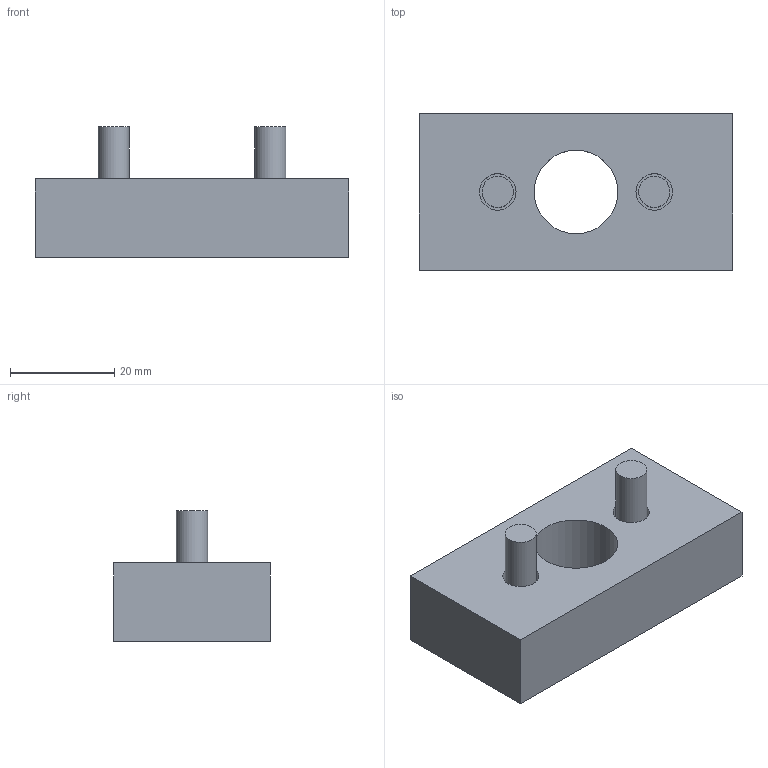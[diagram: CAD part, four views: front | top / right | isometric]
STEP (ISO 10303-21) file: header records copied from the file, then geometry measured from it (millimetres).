
FILE_DESCRIPTION((''),'2;1');
FILE_NAME('C:\Documents and Settings\古川典政\My Documents\Inventor\HP用\MasterData\ACCESSORY\M6\LFA-3060-6.stp','2008-08-05T14:44:11',(''),(''),'Autodesk Inventor 2008','Autodesk Inventor 2008','');
FILE_SCHEMA(('CONFIG_CONTROL_DESIGN'));
Length unit declared in the file: millimetre
Products named in the file (4): LFA-3060-6; LFA-3060-61; LFA-3060-62; LFA-3060-63
Assembly tree (3 placements, depth 2):
  LFA-3060-6
    LFA-3060-61
    LFA-3060-62
    LFA-3060-63
Bounding box: 60 x 30 x 25 mm (x, y, z)
Volume: 23999 mm3; surface area: 8703 mm2
Topology: 3 solids, 3 shells, 23 faces, 40 edges, 27 vertices
Faces by surface type: plane 13, cylinder 6, bspline 4
Full cylindrical faces by diameter (mm): 6 x2, 7 x1, 10 x2, 11 x1
Entity records: 658 total; most frequent: CARTESIAN_POINT 140, DIRECTION 100, ORIENTED_EDGE 60, AXIS2_PLACEMENT_3D 44, EDGE_LOOP 42, EDGE_CURVE 30, VERTEX_POINT 26, FACE_OUTER_BOUND 23
